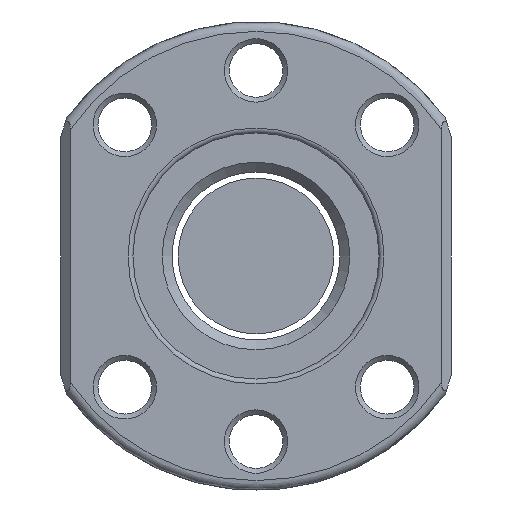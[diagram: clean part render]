
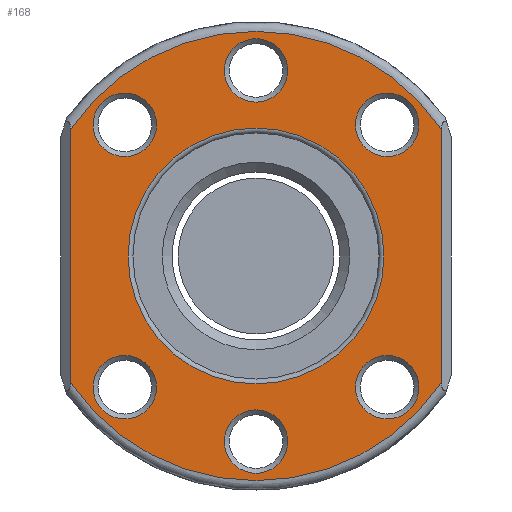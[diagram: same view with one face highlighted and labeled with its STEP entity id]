
A CAD part, front view. The second image highlights one B-rep face of the part: STEP entity #168.
In plain terms, the highlighted planar face has unit normal (0, -1, 0).
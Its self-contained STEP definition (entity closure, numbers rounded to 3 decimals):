
#62=LINE('',#1148,#86);
#63=LINE('',#1152,#87);
#86=VECTOR('',#928,1.);
#87=VECTOR('',#931,1.);
#132=PLANE('',#806);
#168=ADVANCED_FACE('',(#238,#239,#240,#241,#242,#243,#244,#245),#132,.T.);
#238=FACE_BOUND('',#318,.T.);
#239=FACE_BOUND('',#319,.T.);
#240=FACE_BOUND('',#320,.T.);
#241=FACE_BOUND('',#321,.T.);
#242=FACE_BOUND('',#322,.T.);
#243=FACE_BOUND('',#323,.T.);
#244=FACE_BOUND('',#324,.T.);
#245=FACE_BOUND('',#325,.T.);
#318=EDGE_LOOP('',(#417));
#319=EDGE_LOOP('',(#418));
#320=EDGE_LOOP('',(#419));
#321=EDGE_LOOP('',(#420));
#322=EDGE_LOOP('',(#421));
#323=EDGE_LOOP('',(#422));
#324=EDGE_LOOP('',(#423,#424,#425,#426));
#325=EDGE_LOOP('',(#427));
#417=ORIENTED_EDGE('',*,*,#660,.T.);
#418=ORIENTED_EDGE('',*,*,#661,.T.);
#419=ORIENTED_EDGE('',*,*,#662,.T.);
#420=ORIENTED_EDGE('',*,*,#663,.T.);
#421=ORIENTED_EDGE('',*,*,#664,.T.);
#422=ORIENTED_EDGE('',*,*,#665,.T.);
#423=ORIENTED_EDGE('',*,*,#666,.T.);
#424=ORIENTED_EDGE('',*,*,#667,.T.);
#425=ORIENTED_EDGE('',*,*,#668,.T.);
#426=ORIENTED_EDGE('',*,*,#669,.T.);
#427=ORIENTED_EDGE('',*,*,#670,.T.);
#589=VERTEX_POINT('',#1134);
#590=VERTEX_POINT('',#1136);
#591=VERTEX_POINT('',#1138);
#592=VERTEX_POINT('',#1140);
#593=VERTEX_POINT('',#1142);
#594=VERTEX_POINT('',#1144);
#595=VERTEX_POINT('',#1146);
#596=VERTEX_POINT('',#1147);
#597=VERTEX_POINT('',#1149);
#598=VERTEX_POINT('',#1151);
#599=VERTEX_POINT('',#1154);
#660=EDGE_CURVE('',#589,#589,#745,.T.);
#661=EDGE_CURVE('',#590,#590,#746,.T.);
#662=EDGE_CURVE('',#591,#591,#747,.T.);
#663=EDGE_CURVE('',#592,#592,#748,.T.);
#664=EDGE_CURVE('',#593,#593,#749,.T.);
#665=EDGE_CURVE('',#594,#594,#750,.T.);
#666=EDGE_CURVE('',#595,#596,#751,.T.);
#667=EDGE_CURVE('',#596,#597,#62,.T.);
#668=EDGE_CURVE('',#597,#598,#752,.T.);
#669=EDGE_CURVE('',#598,#595,#63,.T.);
#670=EDGE_CURVE('',#599,#599,#753,.T.);
#745=CIRCLE('',#797,3.25);
#746=CIRCLE('',#798,3.25);
#747=CIRCLE('',#799,3.25);
#748=CIRCLE('',#800,3.25);
#749=CIRCLE('',#801,3.25);
#750=CIRCLE('',#802,3.25);
#751=CIRCLE('',#803,23.);
#752=CIRCLE('',#804,23.);
#753=CIRCLE('',#805,13.1);
#797=AXIS2_PLACEMENT_3D('',#1133,#914,#915);
#798=AXIS2_PLACEMENT_3D('',#1135,#916,#917);
#799=AXIS2_PLACEMENT_3D('',#1137,#918,#919);
#800=AXIS2_PLACEMENT_3D('',#1139,#920,#921);
#801=AXIS2_PLACEMENT_3D('',#1141,#922,#923);
#802=AXIS2_PLACEMENT_3D('',#1143,#924,#925);
#803=AXIS2_PLACEMENT_3D('',#1145,#926,#927);
#804=AXIS2_PLACEMENT_3D('',#1150,#929,#930);
#805=AXIS2_PLACEMENT_3D('',#1153,#932,#933);
#806=AXIS2_PLACEMENT_3D('',#1155,#934,#935);
#914=DIRECTION('',(0.,1.,0.));
#915=DIRECTION('',(0.,0.,-1.));
#916=DIRECTION('',(0.,1.,0.));
#917=DIRECTION('',(0.,0.,-1.));
#918=DIRECTION('',(0.,1.,0.));
#919=DIRECTION('',(0.,0.,-1.));
#920=DIRECTION('',(0.,1.,0.));
#921=DIRECTION('',(0.,0.,-1.));
#922=DIRECTION('',(0.,1.,0.));
#923=DIRECTION('',(0.,0.,-1.));
#924=DIRECTION('',(0.,1.,0.));
#925=DIRECTION('',(0.,0.,-1.));
#926=DIRECTION('',(0.,-1.,0.));
#927=DIRECTION('',(0.,0.,-1.));
#928=DIRECTION('',(0.,0.,-1.));
#929=DIRECTION('',(0.,-1.,0.));
#930=DIRECTION('',(0.,0.,-1.));
#931=DIRECTION('',(0.,0.,1.));
#932=DIRECTION('',(0.,1.,0.));
#933=DIRECTION('',(0.,0.,-1.));
#934=DIRECTION('',(0.,-1.,0.));
#935=DIRECTION('',(0.,0.,-1.));
#1133=CARTESIAN_POINT('',(-13.435,0.,-13.435));
#1134=CARTESIAN_POINT('',(-13.435,0.,-16.685));
#1135=CARTESIAN_POINT('',(0.,0.,19.));
#1136=CARTESIAN_POINT('',(0.,0.,15.75));
#1137=CARTESIAN_POINT('',(13.435,0.,13.435));
#1138=CARTESIAN_POINT('',(13.435,0.,10.185));
#1139=CARTESIAN_POINT('',(-13.435,0.,13.435));
#1140=CARTESIAN_POINT('',(-13.435,0.,10.185));
#1141=CARTESIAN_POINT('',(0.,0.,-19.));
#1142=CARTESIAN_POINT('',(0.,0.,-22.25));
#1143=CARTESIAN_POINT('',(13.435,0.,-13.435));
#1144=CARTESIAN_POINT('',(13.435,0.,-16.685));
#1145=CARTESIAN_POINT('',(0.,0.,0.));
#1146=CARTESIAN_POINT('',(19.,0.,12.961));
#1147=CARTESIAN_POINT('',(-19.,0.,12.961));
#1148=CARTESIAN_POINT('',(-19.,0.,0.));
#1149=CARTESIAN_POINT('',(-19.,0.,-12.961));
#1150=CARTESIAN_POINT('',(0.,0.,0.));
#1151=CARTESIAN_POINT('',(19.,0.,-12.961));
#1152=CARTESIAN_POINT('',(19.,0.,11.358));
#1153=CARTESIAN_POINT('',(0.,0.,0.));
#1154=CARTESIAN_POINT('',(0.,0.,-13.1));
#1155=CARTESIAN_POINT('',(0.,0.,0.));
